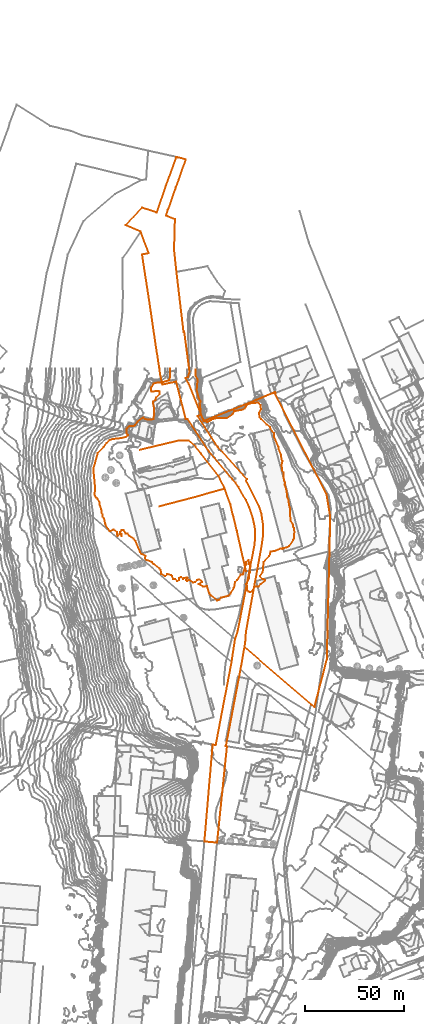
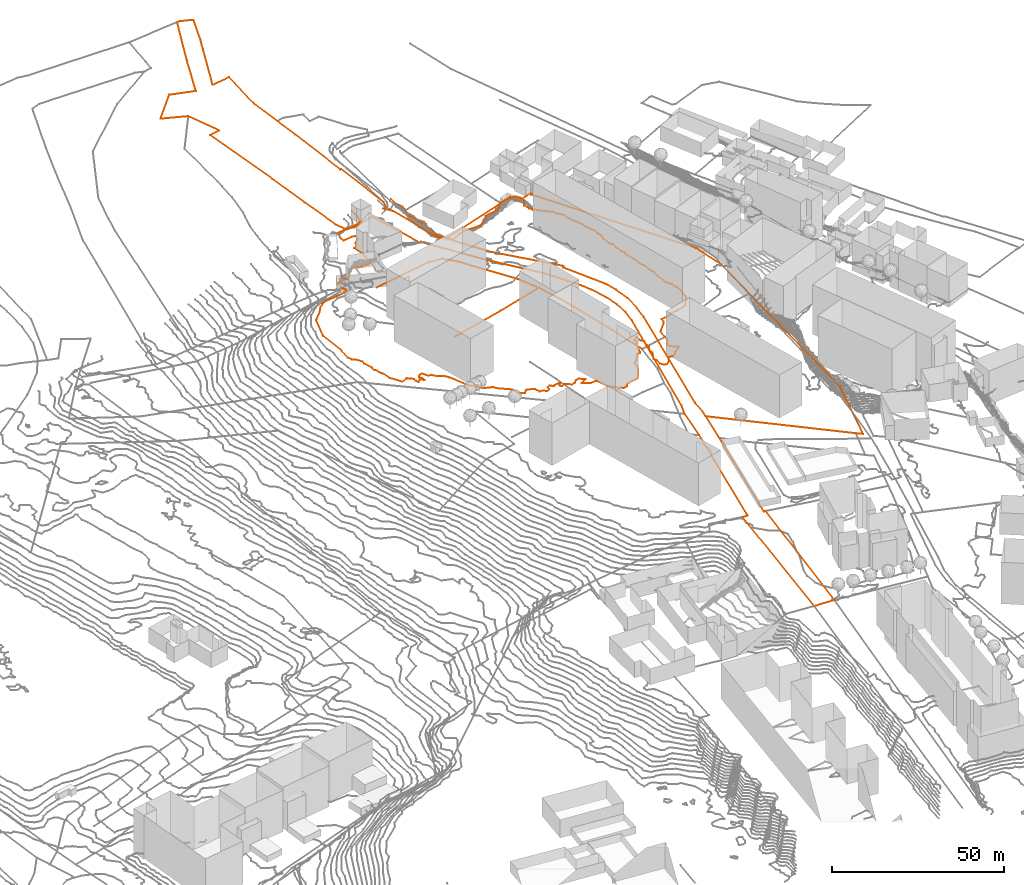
# Not in any storey, part 381 of 419: 6 proxies.
"""IFC2X3 model written with IfcOpenShell, lengths in metres."""

from ifc_helpers import new_model, entity, si_unit, frame, origin_with_axes, place, context, subcontext, project, element, save


model = new_model("IFC2X3")

# Units and contexts
model_context = context("Model", 3, precision=1e-05, world=origin_with_axes())
body_context = subcontext(model_context, "Body", "Model", "MODEL_VIEW")
ifc_project = project(units=[si_unit("AREAUNIT", "SQUARE_METRE"), si_unit("LENGTHUNIT", "METRE")], contexts=[model_context])

# Proxies
proxy_1_placement = place(None, frame((834.6920204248, 962.8976909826, 97.6), z_axis=(0.0, 0.0, 1.0), x_axis=(1.0, 0.0, 0.0)))
element("IfcBuildingElementProxy", 1, at=proxy_1_placement, Name="Route 17", ObjectType="NOTDEFINED", context=body_context, shape_type="GeometricCurveSet", body=[
    entity("IfcGeometricCurveSet", [entity("IfcPolyline", [entity("IfcCartesianPoint", [0.0, 0.0, 0.0]), entity("IfcCartesianPoint", [18.3, 4.7999999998, 0.0]), entity("IfcCartesianPoint", [33.4, 9.0, 0.3])])]),
])
proxy_2_placement = place(None, frame((868.0920204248, 971.8976909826, 97.9), z_axis=(0.0, 0.0, 1.0), x_axis=(1.0, 0.0, 0.0)))
element("IfcBuildingElementProxy", 2, at=proxy_2_placement, Name="Route 91", ObjectType="NOTDEFINED", context=body_context, shape_type="GeometricCurveSet", body=[
    entity("IfcGeometricCurveSet", [entity("IfcPolyline", [entity("IfcCartesianPoint", [0.0, 0.0, 0.0]), entity("IfcCartesianPoint", [2.8, -8.0999999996, -0.1]), entity("IfcCartesianPoint", [4.4, -14.4000000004, -0.1]), entity("IfcCartesianPoint", [6.1, -21.4000000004, -0.1]), entity("IfcCartesianPoint", [10.7, -41.5999999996, -0.2])])]),
])
proxy_3_placement = place(None, frame((824.9920204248, 991.3976909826, 101.2), z_axis=(0.0, 0.0, 1.0), x_axis=(1.0, 0.0, 0.0)))
element("IfcBuildingElementProxy", 3, at=proxy_3_placement, Name="Route 277", ObjectType="NOTDEFINED", context=body_context, shape_type="GeometricCurveSet", body=[
    entity("IfcGeometricCurveSet", [entity("IfcPolyline", [entity("IfcCartesianPoint", [0.0, 0.0, 0.0]), entity("IfcCartesianPoint", [20.0, 4.7999999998, -1.0]), entity("IfcCartesianPoint", [24.7999999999, 4.7000000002, -1.3]), entity("IfcCartesianPoint", [28.2999999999, 1.7999999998, -1.7]), entity("IfcCartesianPoint", [31.1, -1.9000000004, -2.0]), entity("IfcCartesianPoint", [40.0, -13.2000000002, -3.0]), entity("IfcCartesianPoint", [43.1, -19.5, -3.3])])]),
])
proxy_4_placement = place(None, frame((818.2020204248, 1104.7076909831, 94.702703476), z_axis=(0.0, 0.0, 1.0), x_axis=(1.0, 0.0, 0.0)))
element("IfcBuildingElementProxy", 4, at=proxy_4_placement, Name="Cadastre 248", ObjectType="NOTDEFINED", context=body_context, shape_type="GeometricCurveSet", body=[
    entity("IfcGeometricCurveSet", [entity("IfcPolyline", [entity("IfcCartesianPoint", [39.61, -310.6400000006, 2.0233921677]), entity("IfcCartesianPoint", [43.78, -261.7600000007, 2.4161327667]), entity("IfcCartesianPoint", [45.26, -262.1200000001, 2.5743314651]), entity("IfcCartesianPoint", [45.42, -261.5200000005, 2.5714461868]), entity("IfcCartesianPoint", [53.29, -220.21, 2.7944966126]), entity("IfcCartesianPoint", [55.04, -208.7400000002, 2.8258055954]), entity("IfcCartesianPoint", [56.4, -204.5200000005, 2.7878148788]), entity("IfcCartesianPoint", [64.85, -161.1700000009, 3.5294951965]), entity("IfcCartesianPoint", [65.26, -156.7200000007, 3.6581281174]), entity("IfcCartesianPoint", [65.0, -152.25, 3.7654653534]), entity("IfcCartesianPoint", [63.99, -147.3300000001, 3.8446976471]), entity("IfcCartesianPoint", [62.1900000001, -142.0700000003, 3.9019356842]), entity("IfcCartesianPoint", [60.5900000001, -138.6700000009, 3.8888161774]), entity("IfcCartesianPoint", [56.76, -132.0100000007, 3.9495671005]), entity("IfcCartesianPoint", [55.23, -129.8000000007, 4.0529814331]), entity("IfcCartesianPoint", [53.4700000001, -127.79, 4.2856010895]), entity("IfcCartesianPoint", [42.04, -114.2300000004, 4.8341968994]), entity("IfcCartesianPoint", [31.2200000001, -97.8400000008, 4.5754707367]), entity("IfcCartesianPoint", [30.23, -97.7400000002, 4.8801073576]), entity("IfcCartesianPoint", [25.38, -78.8900000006, 4.3266284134]), entity("IfcCartesianPoint", [18.4500000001, -80.3100000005, 3.6696993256]), entity("IfcCartesianPoint", [17.49, -76.1700000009, 1.1805992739]), entity("IfcCartesianPoint", [16.92, -72.3300000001, 0.4724897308]), entity("IfcCartesianPoint", [14.74, -58.1300000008, 0.467294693]), entity("IfcCartesianPoint", [12.5800000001, -43.4000000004, 0.4753964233]), entity("IfcCartesianPoint", [8.2100000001, -14.7300000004, 0.2382942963]), entity("IfcCartesianPoint", [11.53, -14.1300000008, 0.3912981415]), entity("IfcCartesianPoint", [7.49, -3.21, 0.2022975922]), entity("IfcCartesianPoint", [0.0, 0.0, 0.0]), entity("IfcCartesianPoint", [8.0700000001, 8.8799999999, 0.2312949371]), entity("IfcCartesianPoint", [15.5800000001, 6.4299999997, 0.4691950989]), entity("IfcCartesianPoint", [20.04, 19.3599999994, 1.8647983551]), entity("IfcCartesianPoint", [25.4400000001, 34.3699999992, 4.4277992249]), entity("IfcCartesianPoint", [26.27, 34.1499999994, 4.602098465]), entity("IfcCartesianPoint", [30.2000000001, 33.1399999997, 4.3076991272]), entity("IfcCartesianPoint", [26.5700000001, 22.7399999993, 4.6416986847]), entity("IfcCartesianPoint", [25.17, 18.9799999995, 4.3644980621]), entity("IfcCartesianPoint", [24.9700000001, 18.3899999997, 4.3164969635]), entity("IfcCartesianPoint", [21.15, 7.4899999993, 2.7048941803]), entity("IfcCartesianPoint", [20.2100000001, 4.79, 1.9922983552]), entity("IfcCartesianPoint", [24.76, 2.9399999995, 4.2660958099]), entity("IfcCartesianPoint", [24.3400000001, -12.2600000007, 4.1652938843]), entity("IfcCartesianPoint", [25.54, -23.5800000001, 4.4487991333]), entity("IfcCartesianPoint", [26.5600000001, -32.1600000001, 4.6408986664]), entity("IfcCartesianPoint", [29.13, -53.8100000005, 4.4814954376]), entity("IfcCartesianPoint", [29.4500000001, -53.7400000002, 4.4276961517]), entity("IfcCartesianPoint", [32.11, -73.8700000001, 3.9814890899]), entity("IfcCartesianPoint", [31.3300000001, -76.5700000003, 4.2296508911]), entity("IfcCartesianPoint", [30.11, -77.0300000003, 4.3213765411]), entity("IfcCartesianPoint", [31.73, -79.9400000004, 4.6911288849]), entity("IfcCartesianPoint", [38.02, -95.4900000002, 2.2466563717]), entity("IfcCartesianPoint", [36.25, -96.1800000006, 4.3817514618]), entity("IfcCartesianPoint", [46.17, -111.4900000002, 4.300094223]), entity("IfcCartesianPoint", [61.02, -128.04, 4.1145987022]), entity("IfcCartesianPoint", [60.53, -128.6300000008, 4.1167465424]), entity("IfcCartesianPoint", [67.28, -141.8000000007, 3.882771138]), entity("IfcCartesianPoint", [68.39, -145.6500000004, 3.8042954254]), entity("IfcCartesianPoint", [69.2000000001, -150.9800000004, 3.7815343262]), entity("IfcCartesianPoint", [69.2000000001, -156.3700000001, 3.795382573]), entity("IfcCartesianPoint", [68.4300000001, -161.6800000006, 3.939618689]), entity("IfcCartesianPoint", [60.54, -205.1500000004, 2.7272968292]), entity("IfcCartesianPoint", [60.2200000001, -210.1900000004, 2.6950922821]), entity("IfcCartesianPoint", [59.78, -212.71, 2.6977770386]), entity("IfcCartesianPoint", [57.79, -224.0900000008, 2.6401355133]), entity("IfcCartesianPoint", [50.4700000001, -262.4100000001, 2.5216157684]), entity("IfcCartesianPoint", [50.39, -262.6900000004, 2.5528966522]), entity("IfcCartesianPoint", [50.99, -262.7000000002, 2.5697554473]), entity("IfcCartesianPoint", [46.01, -311.2600000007, 2.2745267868]), entity("IfcCartesianPoint", [39.61, -310.6400000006, 2.0233921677])])]),
])
proxy_5_placement = place(None, frame((854.4520204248, 1008.5276909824, 99.0844549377), z_axis=(0.0, 0.0, 1.0), x_axis=(1.0, 0.0, 0.0)))
element("IfcBuildingElementProxy", 5, at=proxy_5_placement, Name="Cadastre 251", ObjectType="NOTDEFINED", context=body_context, shape_type="GeometricCurveSet", body=[
    entity("IfcGeometricCurveSet", [entity("IfcPolyline", [entity("IfcCartesianPoint", [1.77, 0.6900000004, -2.1350950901]), entity("IfcCartesianPoint", [2.9300000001, -2.54, -0.3229599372]), entity("IfcCartesianPoint", [29.0900000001, 7.9000000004, -2.0015677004]), entity("IfcCartesianPoint", [30.02, 8.29, -1.9485272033]), entity("IfcCartesianPoint", [32.3200000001, 9.2800000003, -4.4515066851]), entity("IfcCartesianPoint", [34.1, 10.04, -5.8586246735]), entity("IfcCartesianPoint", [37.13, 11.3300000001, -6.0092382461]), entity("IfcCartesianPoint", [39.0600000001, 12.1600000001, -6.1076813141]), entity("IfcCartesianPoint", [39.24, 11.6200000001, -6.1132036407]), entity("IfcCartesianPoint", [38.8200000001, 11.46, -6.0827899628]), entity("IfcCartesianPoint", [64.9, -39.4199999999, -3.4692411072]), entity("IfcCartesianPoint", [66.8300000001, -50.6899999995, -3.1028378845]), entity("IfcCartesianPoint", [65.0700000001, -122.4699999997, -2.0663200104]), entity("IfcCartesianPoint", [58.79, -146.79, -1.8975540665]), entity("IfcCartesianPoint", [57.0900000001, -145.4399999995, -1.9208806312]), entity("IfcCartesianPoint", [23.53, -116.5299999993, -1.6839744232]), entity("IfcCartesianPoint", [23.9700000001, -114.0099999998, -1.6866591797]), entity("IfcCartesianPoint", [24.29, -108.9699999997, -1.6544546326]), entity("IfcCartesianPoint", [32.1800000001, -65.5, -0.4421327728]), entity("IfcCartesianPoint", [32.9500000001, -60.1899999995, -0.5863688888]), entity("IfcCartesianPoint", [32.9500000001, -54.7999999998, -0.6002171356]), entity("IfcCartesianPoint", [32.14, -49.4699999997, -0.5774560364]), entity("IfcCartesianPoint", [31.03, -45.6200000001, -0.4989803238]), entity("IfcCartesianPoint", [24.28, -32.4500000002, -0.2650049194]), entity("IfcCartesianPoint", [24.77, -31.8599999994, -0.2671527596]), entity("IfcCartesianPoint", [9.92, -15.3099999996, -0.0816572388]), entity("IfcCartesianPoint", [0.0, 0.0, 0.0]), entity("IfcCartesianPoint", [1.77, 0.6900000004, -2.1350950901])])]),
])
proxy_6_placement = place(None, frame((801.8263980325, 981.8976909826, 98.0), z_axis=(0.0, 0.0, 1.0), x_axis=(1.0, 0.0, 0.0)))
element("IfcBuildingElementProxy", 6, at=proxy_6_placement, Name="Contour 98.0 m", ObjectType="NOTDEFINED", context=body_context, shape_type="GeometricCurveSet", body=[
    entity("IfcGeometricCurveSet", [entity("IfcPolyline", [entity("IfcCartesianPoint", [51.4975066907, 50.5, 0.0]), entity("IfcCartesianPoint", [51.6584807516, 47.0, 0.0]), entity("IfcCartesianPoint", [52.5805397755, 45.0, 0.0]), entity("IfcCartesianPoint", [52.1008493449, 40.0, 0.0]), entity("IfcCartesianPoint", [53.0989578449, 36.0, 0.0]), entity("IfcCartesianPoint", [54.0971451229, 34.0, 0.0]), entity("IfcCartesianPoint", [53.6709254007, 33.0, 0.0]), entity("IfcCartesianPoint", [53.7712372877, 31.0, 0.0]), entity("IfcCartesianPoint", [54.1459052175, 30.0, 0.0]), entity("IfcCartesianPoint", [53.9588040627, 28.0, 0.0]), entity("IfcCartesianPoint", [55.3375182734, 25.0, 0.0]), entity("IfcCartesianPoint", [56.2656223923, 24.1314986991, 0.0]), entity("IfcCartesianPoint", [57.2656223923, 23.5999999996, 0.0]), entity("IfcCartesianPoint", [59.2656223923, 24.4563107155, 0.0]), entity("IfcCartesianPoint", [59.8844066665, 25.0, 0.0]), entity("IfcCartesianPoint", [62.2656223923, 25.5562136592, 0.0]), entity("IfcCartesianPoint", [67.2656223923, 25.5080631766, 0.0]), entity("IfcCartesianPoint", [70.2656223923, 27.5212772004, 0.0]), entity("IfcCartesianPoint", [71.0169740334, 29.0, 0.0]), entity("IfcCartesianPoint", [75.2656223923, 29.8173055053, 0.0]), entity("IfcCartesianPoint", [76.2656223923, 30.409090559, 0.0]), entity("IfcCartesianPoint", [76.8419765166, 31.0, 0.0]), entity("IfcCartesianPoint", [77.1449328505, 32.0, 0.0]), entity("IfcCartesianPoint", [78.2656223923, 32.7117121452, 0.0]), entity("IfcCartesianPoint", [80.2656223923, 33.2005723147, 0.0]), entity("IfcCartesianPoint", [83.2656223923, 33.3076968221, 0.0]), entity("IfcCartesianPoint", [84.2656223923, 32.1428633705, 0.0]), entity("IfcCartesianPoint", [84.5236916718, 30.0, 0.0]), entity("IfcCartesianPoint", [83.4725230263, 28.0, 0.0]), entity("IfcCartesianPoint", [83.8810103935, 26.0, 0.0]), entity("IfcCartesianPoint", [84.567512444, 25.0, 0.0]), entity("IfcCartesianPoint", [87.2656223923, 22.3928610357, 0.0]), entity("IfcCartesianPoint", [89.140598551, 21.0, 0.0]), entity("IfcCartesianPoint", [89.3960542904, 20.0, 0.0]), entity("IfcCartesianPoint", [90.9799003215, 18.0, 0.0]), entity("IfcCartesianPoint", [91.2067883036, 16.0, 0.0]), entity("IfcCartesianPoint", [93.337066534, 11.0, 0.0]), entity("IfcCartesianPoint", [93.447421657, 10.0, 0.0]), entity("IfcCartesianPoint", [94.6656376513, 7.0, 0.0]), entity("IfcCartesianPoint", [94.8211873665, 5.0, 0.0]), entity("IfcCartesianPoint", [95.2656323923, 4.0, 0.0]), entity("IfcCartesianPoint", [94.9019797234, 2.0, 0.0]), entity("IfcCartesianPoint", [95.2129802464, -1.0, 0.0]), entity("IfcCartesianPoint", [96.0156462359, -2.0, 0.0]), entity("IfcCartesianPoint", [95.8656223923, -4.0, 0.0]), entity("IfcCartesianPoint", [96.210055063, -6.0, 0.0]), entity("IfcCartesianPoint", [96.7656323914, -7.0, 0.0]), entity("IfcCartesianPoint", [96.5155985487, -8.0, 0.0]), entity("IfcCartesianPoint", [97.4194459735, -11.0, 0.0]), entity("IfcCartesianPoint", [97.7322822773, -14.0, 0.0]), entity("IfcCartesianPoint", [98.4761508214, -16.0, 0.0]), entity("IfcCartesianPoint", [98.5989415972, -18.0, 0.0]), entity("IfcCartesianPoint", [99.1886857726, -20.0, 0.0]), entity("IfcCartesianPoint", [99.0656529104, -22.0, 0.0]), entity("IfcCartesianPoint", [99.4878163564, -26.0, 0.0]), entity("IfcCartesianPoint", [100.6941782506, -28.0, 0.0]), entity("IfcCartesianPoint", [100.6941782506, -29.0, 0.0]), entity("IfcCartesianPoint", [101.1822731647, -30.0, 0.0]), entity("IfcCartesianPoint", [101.356550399, -32.0, 0.0]), entity("IfcCartesianPoint", [101.0838231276, -35.0, 0.0]), entity("IfcCartesianPoint", [100.7656307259, -36.0, 0.0]), entity("IfcCartesianPoint", [98.6823049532, -39.0, 0.0]), entity("IfcCartesianPoint", [97.2656223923, -39.6538529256, 0.0]), entity("IfcCartesianPoint", [95.5989557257, -40.0, 0.0]), entity("IfcCartesianPoint", [95.2656223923, -40.4285558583, 0.0]), entity("IfcCartesianPoint", [94.2656223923, -40.2222269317, 0.0]), entity("IfcCartesianPoint", [91.2656223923, -41.39996948, 0.0]), entity("IfcCartesianPoint", [89.2656223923, -41.714332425, 0.0]), entity("IfcCartesianPoint", [89.1117988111, -43.0, 0.0]), entity("IfcCartesianPoint", [88.515670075, -44.0, 0.0]), entity("IfcCartesianPoint", [85.765627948, -47.0, 0.0]), entity("IfcCartesianPoint", [85.578134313, -51.0, 0.0]), entity("IfcCartesianPoint", [85.2656223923, -52.0000166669, 0.0]), entity("IfcCartesianPoint", [83.9322890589, -54.0, 0.0]), entity("IfcCartesianPoint", [85.2656223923, -55.4999875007, 0.0]), entity("IfcCartesianPoint", [86.5513444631, -56.0, 0.0]), entity("IfcCartesianPoint", [86.2656223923, -56.6667090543, 0.0]), entity("IfcCartesianPoint", [84.2656223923, -58.1111299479, 0.0]), entity("IfcCartesianPoint", [83.2656223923, -59.3684147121, 0.0]), entity("IfcCartesianPoint", [81.2656223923, -59.357166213, 0.0]), entity("IfcCartesianPoint", [80.5156223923, -61.0, 0.0]), entity("IfcCartesianPoint", [79.2656223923, -62.1428882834, 0.0]), entity("IfcCartesianPoint", [78.2655973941, -62.0, 0.0]), entity("IfcCartesianPoint", [77.578134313, -61.0, 0.0]), entity("IfcCartesianPoint", [77.5287929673, -59.0, 0.0]), entity("IfcCartesianPoint", [77.1117988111, -58.0, 0.0]), entity("IfcCartesianPoint", [78.4799003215, -55.0, 0.0]), entity("IfcCartesianPoint", [78.5156223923, -53.0, 0.0]), entity("IfcCartesianPoint", [79.1117988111, -52.0, 0.0]), entity("IfcCartesianPoint", [78.8489398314, -51.0, 0.0]), entity("IfcCartesianPoint", [79.265611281, -49.0, 0.0]), entity("IfcCartesianPoint", [78.578134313, -48.0, 0.0]), entity("IfcCartesianPoint", [78.2656223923, -46.0000500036, 0.0]), entity("IfcCartesianPoint", [76.9322042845, -47.0, 0.0]), entity("IfcCartesianPoint", [77.2656423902, -48.0, 0.0]), entity("IfcCartesianPoint", [76.515670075, -49.0, 0.0]), entity("IfcCartesianPoint", [75.515670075, -53.0, 0.0]), entity("IfcCartesianPoint", [75.2656223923, -53.3334181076, 0.0]), entity("IfcCartesianPoint", [74.2656223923, -53.39996948, 0.0]), entity("IfcCartesianPoint", [72.5512899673, -56.0, 0.0]), entity("IfcCartesianPoint", [71.3489716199, -57.0, 0.0]), entity("IfcCartesianPoint", [71.2656223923, -58.5000499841, 0.0]), entity("IfcCartesianPoint", [70.7656390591, -60.0, 0.0]), entity("IfcCartesianPoint", [69.0989345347, -63.0, 0.0]), entity("IfcCartesianPoint", [68.2656723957, -64.0, 0.0]), entity("IfcCartesianPoint", [64.2656223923, -65.0000199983, 0.0]), entity("IfcCartesianPoint", [63.5512899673, -66.0, 0.0]), entity("IfcCartesianPoint", [62.2656223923, -66.3333502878, 0.0]), entity("IfcCartesianPoint", [59.2656223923, -63.9230633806, 0.0]), entity("IfcCartesianPoint", [58.6340371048, -63.0, 0.0]), entity("IfcCartesianPoint", [57.2656223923, -59.1666878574, 0.0]), entity("IfcCartesianPoint", [55.2656223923, -59.3332909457, 0.0]), entity("IfcCartesianPoint", [52.9322042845, -58.0, 0.0]), entity("IfcCartesianPoint", [54.9322042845, -57.0, 0.0]), entity("IfcCartesianPoint", [53.2656223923, -55.7272853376, 0.0]), entity("IfcCartesianPoint", [52.2656223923, -56.0000166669, 0.0]), entity("IfcCartesianPoint", [51.2656223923, -57.0000999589, 0.0]), entity("IfcCartesianPoint", [50.2656223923, -57.3332909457, 0.0]), entity("IfcCartesianPoint", [48.2656223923, -56.000033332, 0.0]), entity("IfcCartesianPoint", [47.2656223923, -56.60003052, 0.0]), entity("IfcCartesianPoint", [46.7656057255, -56.0, 0.0]), entity("IfcCartesianPoint", [47.465652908, -55.0, 0.0]), entity("IfcCartesianPoint", [47.2656223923, -54.8888700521, 0.0]), entity("IfcCartesianPoint", [45.7656473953, -55.0, 0.0]), entity("IfcCartesianPoint", [45.2656223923, -55.5000250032, 0.0]), entity("IfcCartesianPoint", [44.2656223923, -54.5000499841, 0.0]), entity("IfcCartesianPoint", [43.2657223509, -55.0, 0.0]), entity("IfcCartesianPoint", [43.2656557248, -56.0, 0.0]), entity("IfcCartesianPoint", [42.2656223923, -56.6665818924, 0.0]), entity("IfcCartesianPoint", [41.2656223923, -55.6665818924, 0.0]), entity("IfcCartesianPoint", [40.2656223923, -55.60003052, 0.0]), entity("IfcCartesianPoint", [39.6655918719, -54.0, 0.0]), entity("IfcCartesianPoint", [39.2656223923, -53.6667090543, 0.0]), entity("IfcCartesianPoint", [37.2656223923, -53.000033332, 0.0]), entity("IfcCartesianPoint", [36.2656223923, -54.1666878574, 0.0]), entity("IfcCartesianPoint", [34.2655224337, -53.0, 0.0]), entity("IfcCartesianPoint", [33.9531104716, -51.0, 0.0]), entity("IfcCartesianPoint", [33.2656223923, -50.3529306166, 0.0]), entity("IfcCartesianPoint", [30.2656223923, -48.0000076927, 0.0]), entity("IfcCartesianPoint", [29.6655918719, -47.0, 0.0]), entity("IfcCartesianPoint", [26.7655973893, -46.0, 0.0]), entity("IfcCartesianPoint", [26.0155747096, -45.0, 0.0]), entity("IfcCartesianPoint", [26.265608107, -44.0, 0.0]), entity("IfcCartesianPoint", [24.2656223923, -42.8749761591, 0.0]), entity("IfcCartesianPoint", [23.6292650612, -42.0, 0.0]), entity("IfcCartesianPoint", [21.2656223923, -36.5000250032, 0.0]), entity("IfcCartesianPoint", [20.2656223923, -35.2500476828, 0.0]), entity("IfcCartesianPoint", [18.2655224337, -34.0, 0.0]), entity("IfcCartesianPoint", [17.2656223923, -32.7499523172, 0.0]), entity("IfcCartesianPoint", [16.2656223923, -32.6665818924, 0.0]), entity("IfcCartesianPoint", [15.2656223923, -30.7999694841, 0.0]), entity("IfcCartesianPoint", [14.2656223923, -31.0000500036, 0.0]), entity("IfcCartesianPoint", [13.5990405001, -32.0, 0.0]), entity("IfcCartesianPoint", [14.2657223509, -33.0, 0.0]), entity("IfcCartesianPoint", [14.2656223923, -34.000033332, 0.0]), entity("IfcCartesianPoint", [13.2656223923, -33.0000999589, 0.0]), entity("IfcCartesianPoint", [12.2656223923, -34.0000249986, 0.0]), entity("IfcCartesianPoint", [11.8656529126, -33.0, 0.0]), entity("IfcCartesianPoint", [11.9322042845, -32.0, 0.0]), entity("IfcCartesianPoint", [10.2656223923, -30.6665818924, 0.0]), entity("IfcCartesianPoint", [8.2656223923, -31.5000499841, 0.0]), entity("IfcCartesianPoint", [6.0655918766, -28.0, 0.0]), entity("IfcCartesianPoint", [5.4655918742, -25.0, 0.0]), entity("IfcCartesianPoint", [4.7656057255, -24.0, 0.0]), entity("IfcCartesianPoint", [4.6941782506, -23.0, 0.0]), entity("IfcCartesianPoint", [4.0989345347, -22.0, 0.0]), entity("IfcCartesianPoint", [4.1655995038, -21.0, 0.0]), entity("IfcCartesianPoint", [3.2656152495, -18.0, 0.0]), entity("IfcCartesianPoint", [3.2656123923, -17.0, 0.0]), entity("IfcCartesianPoint", [2.2656223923, -15.1666878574, 0.0]), entity("IfcCartesianPoint", [1.2656223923, -14.5000166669, 0.0]), entity("IfcCartesianPoint", [0.6941782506, -13.0, 0.0]), entity("IfcCartesianPoint", [0.8656223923, -9.0, 0.0]), entity("IfcCartesianPoint", [0.0, 0.0, 0.0]), entity("IfcCartesianPoint", [2.2299139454, 8.0, 0.0]), entity("IfcCartesianPoint", [5.1227613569, 11.0, 0.0]), entity("IfcCartesianPoint", [6.5799112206, 13.0, 0.0]), entity("IfcCartesianPoint", [8.2656223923, 14.4255312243, 0.0]), entity("IfcCartesianPoint", [9.7656123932, 15.0, 0.0]), entity("IfcCartesianPoint", [14.2656223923, 15.4893675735, 0.0]), entity("IfcCartesianPoint", [16.2656223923, 16.0312567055, 0.0]), entity("IfcCartesianPoint", [17.2656223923, 16.6249976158, 0.0]), entity("IfcCartesianPoint", [17.4098545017, 17.0, 0.0]), entity("IfcCartesianPoint", [16.7474401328, 18.0, 0.0]), entity("IfcCartesianPoint", [16.8665723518, 20.0, 0.0]), entity("IfcCartesianPoint", [17.2656223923, 20.888889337, 0.0]), entity("IfcCartesianPoint", [18.2656223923, 21.5835777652, 0.0]), entity("IfcCartesianPoint", [20.2656223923, 21.5694113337, 0.0]), entity("IfcCartesianPoint", [21.1167854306, 22.0, 0.0]), entity("IfcCartesianPoint", [22.2656223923, 23.8906761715, 0.0]), entity("IfcCartesianPoint", [24.2656223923, 25.4417172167, 0.0]), entity("IfcCartesianPoint", [25.2656223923, 25.7480310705, 0.0]), entity("IfcCartesianPoint", [26.1292571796, 25.0, 0.0]), entity("IfcCartesianPoint", [27.2656223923, 24.8608261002, 0.0]), entity("IfcCartesianPoint", [29.2656223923, 24.7999986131, 0.0]), entity("IfcCartesianPoint", [30.2656223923, 25.0908964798, 0.0]), entity("IfcCartesianPoint", [30.6089080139, 27.0, 0.0]), entity("IfcCartesianPoint", [30.6822864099, 30.0, 0.0]), entity("IfcCartesianPoint", [30.0156223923, 34.0, 0.0]), entity("IfcCartesianPoint", [31.2656223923, 34.7333299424, 0.0]), entity("IfcCartesianPoint", [31.6656376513, 36.0, 0.0]), entity("IfcCartesianPoint", [33.2656223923, 37.714332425, 0.0]), entity("IfcCartesianPoint", [33.4878163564, 39.0, 0.0]), entity("IfcCartesianPoint", [32.2656223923, 39.2857220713, 0.0]), entity("IfcCartesianPoint", [29.2656223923, 38.8333121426, 0.0]), entity("IfcCartesianPoint", [28.9878281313, 40.0, 0.0]), entity("IfcCartesianPoint", [29.2129802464, 41.0, 0.0]), entity("IfcCartesianPoint", [30.3396849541, 43.0, 0.0]), entity("IfcCartesianPoint", [32.2656223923, 43.4838675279, 0.0]), entity("IfcCartesianPoint", [34.2656223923, 43.3617002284, 0.0]), entity("IfcCartesianPoint", [38.2656223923, 44.666666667, 0.0]), entity("IfcCartesianPoint", [38.7554160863, 47.0, 0.0]), entity("IfcCartesianPoint", [38.7211812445, 50.5, 0.0])])]),
])

save(model, "model.ifc")
